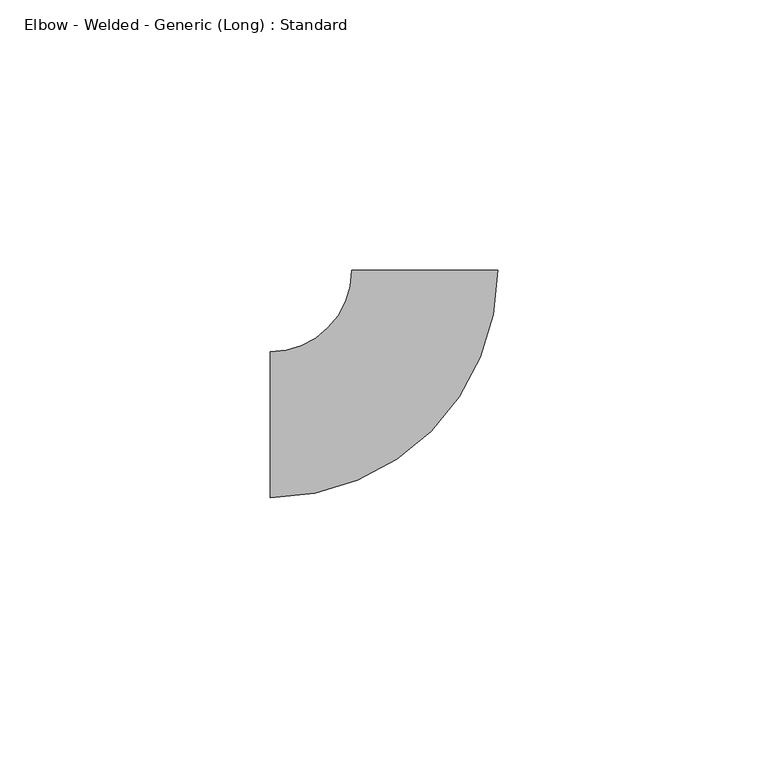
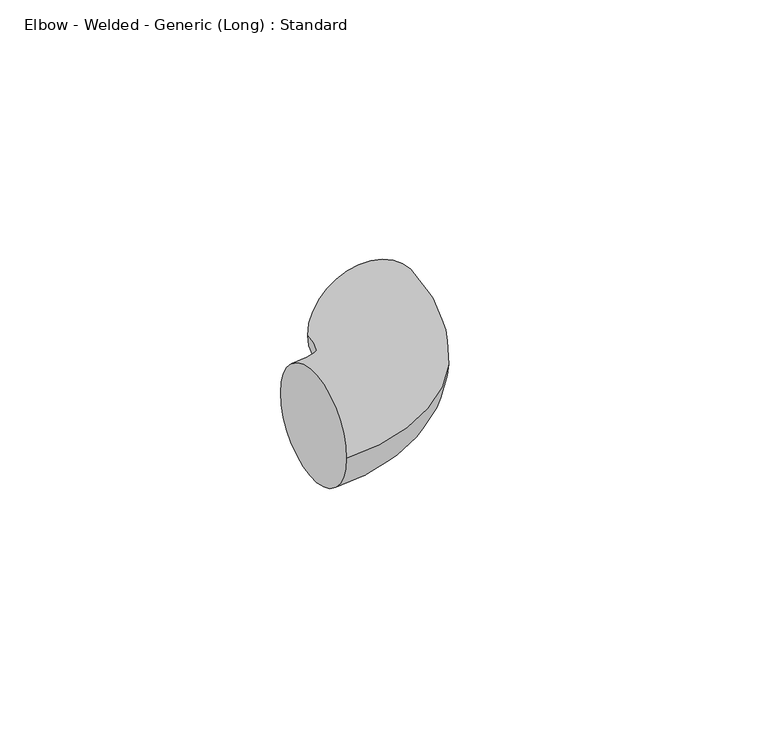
"""IFC4 building model written with IfcOpenShell, lengths in millimetres: pipe fitting geometry, Elbow - Welded - Generic (Long) : Standard."""

from ifc_helpers import new_model, si_unit, point, frame, origin, place, context, project, spatial, circle_curve, ellipse_curve, trimmed, source, transform, mapped, element, save
from ifc_brep_helpers import plane_surface, revolved_surface, advanced_brep


def elbow_welded_generic_long_standard_9caeaf05(model_context):
    return source(origin(), model_context, "Body", "AdvancedBrep", [
        advanced_brep(
        [(-28.575, -13.49375, 0.0), (-28.575, 13.49375, 0.0), (13.5418424, 28.5522402, 0.0), (-13.4456194, 28.5976788, 0.0)],
        [
            (0, 1, circle_curve(frame((-28.575, 0.0, 0.0), z_axis=(-1.0, 0.0, 0.0), x_axis=(0.0, 1.0, 0.0)), 13.49375)),
            (1, 0, circle_curve(frame((-28.575, 0.0, 0.0), z_axis=(-1.0, 0.0, 0.0), x_axis=(0.0, 1.0, 0.0)), 13.49375)),
            (2, 3, circle_curve(frame((0.0481115, 28.5749595, 0.0), z_axis=(0.0016836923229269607, 0.9999985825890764, 0.0), x_axis=(-0.9999985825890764, 0.0016836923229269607, 0.0)), 13.49375)),
            (3, 2, circle_curve(frame((0.0481115, 28.5749595, 0.0), z_axis=(0.0016836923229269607, 0.9999985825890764, 0.0), x_axis=(-0.9999985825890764, 0.0016836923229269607, 0.0)), 13.49375)),
            (3, 1, circle_curve(frame((-28.575, 28.6231521, 0.0), z_axis=(0.0, 0.0, -1.0), x_axis=(0.0, -1.0, 0.0)), 15.1294021)),
            (0, 2, circle_curve(frame((-28.575, 28.6231521, 0.0), z_axis=(0.0, 0.0, 1.0), x_axis=(0.0, -1.0, 0.0)), 42.1169021)),
        ],
        [
            plane_surface(frame((-28.575, 0.0, 0.0), z_axis=(-1.0, 0.0, 0.0), x_axis=(0.0, 0.0, 1.0))),
            plane_surface(frame((0.0481115, 28.5749595, 0.0), z_axis=(0.0016836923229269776, 0.9999985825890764, 0.0), x_axis=(0.0, 0.0, 1.0))),
            revolved_surface(trimmed(ellipse_curve(frame((-28.575, 0.0, 0.0), z_axis=(-1.0, 0.0, 0.0), x_axis=(0.0, 1.0, 0.0)), 13.49375, 13.49375), [point((-28.575, -13.49375, 0.0))], [point((-28.575, 13.49375, 0.0))], True, "CARTESIAN"), (-28.575, 28.6231521, 0.0), (0.0, 0.0, 1.0)),
            revolved_surface(trimmed(ellipse_curve(frame((-28.575, 0.0, 0.0), z_axis=(-1.0, 0.0, 0.0), x_axis=(0.0, 1.0, 0.0)), 13.49375, 13.49375), [point((-28.575, 13.49375, 0.0))], [point((-28.575, -13.49375, 0.0))], True, "CARTESIAN"), (-28.575, 28.6231521, 0.0), (0.0, 0.0, 1.0)),
        ],
        [
            (0, [[1, 2]]),
            (1, [[3, 4]]),
            (2, [[5, -1, 6, -4]]),
            (3, [[-6, -2, -5, -3]]),
        ],
    ),
    ])


if __name__ == "__main__":
    model = new_model("IFC4")
    model_context = context("Model", 3, world=origin())
    ifc_project = project(units=[si_unit("LENGTHUNIT", "METRE", prefix="MILLI")], contexts=[model_context])
    site = spatial("IfcSite", under=ifc_project)
    building = spatial("IfcBuilding", under=site)
    placement = place(None, origin())
    elbow_welded_generic_long_standard_shape = elbow_welded_generic_long_standard_9caeaf05(model_context)
    element("IfcPipeFitting", 1, ObjectType="Elbow - Welded - Generic (Long) : Standard", at=placement, inside=building, context=model_context, shape_type="MappedRepresentation", body=[
        mapped(elbow_welded_generic_long_standard_shape, transform((0.0, 0.0, 0.0), x_axis=(1.0, 0.0, 0.0), y_axis=(0.0, 1.0, 0.0), z_axis=(0.0, 0.0, 1.0))),
    ])
    save(model, "model.ifc")
